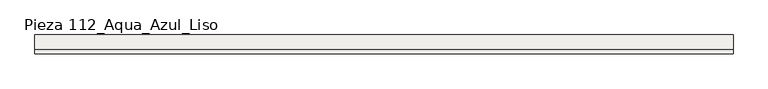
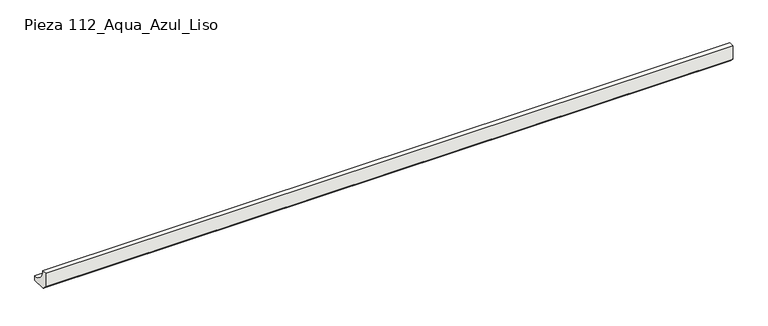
"""IFC4 building model written with IfcOpenShell, lengths in millimetres: slab geometry, ROSA GRES_112 : Pieza 112_Aqua_Azul_Liso."""

from ifc_helpers import new_model, si_unit, point, frame, frame_2d, origin, place, context, project, spatial, polyline, circle_curve, trimmed, segment, composite_curve, outline, extrude, source, transform, mapped, element, save


def pieza_112_aqua_azul_liso_51e2d1d1(model_context):
    return source(origin(), model_context, "Body", "SweptSolid", [
        extrude(outline(composite_curve([segment(polyline([(0.0, 8.7114978), (0.0, 40.0), (9.9734114, 40.0)]), True, "CONTINUOUS"), segment(trimmed(circle_curve(frame_2d((39.9955547, 39.9955547)), 30.0221435), [point((9.9734114, 40.0))], [point((40.0, 9.9734114))], True, "CARTESIAN"), True, "CONTINUOUS"), segment(polyline([(40.0, 9.9734114), (40.0, 0.0), (8.7114978, 0.0), (0.0, 8.7114978)]), True, "CONTINUOUS")], self_intersect=False)), frame((0.0, 0.0, 0.0), z_axis=(1.0, 0.0, 0.0), x_axis=(0.0, 1.0, 0.0)), (0.0, 0.0, 1.0), 1486.8301822),
    ])


if __name__ == "__main__":
    model = new_model("IFC4")
    model_context = context("Model", 3, world=origin())
    ifc_project = project(units=[si_unit("LENGTHUNIT", "METRE", prefix="MILLI")], contexts=[model_context])
    site = spatial("IfcSite", under=ifc_project)
    building = spatial("IfcBuilding", under=site)
    placement = place(None, origin())
    pieza_112_aqua_azul_liso_shape = pieza_112_aqua_azul_liso_51e2d1d1(model_context)
    element("IfcSlab", 1, ObjectType="ROSA GRES_112 : Pieza 112_Aqua_Azul_Liso", at=placement, inside=building, context=model_context, shape_type="MappedRepresentation", body=[
        mapped(pieza_112_aqua_azul_liso_shape, transform((0.0, 0.0, 0.0), x_axis=(1.0, 0.0, 0.0), y_axis=(0.0, 1.0, 0.0), z_axis=(0.0, 0.0, 1.0))),
    ])
    save(model, "model.ifc")
